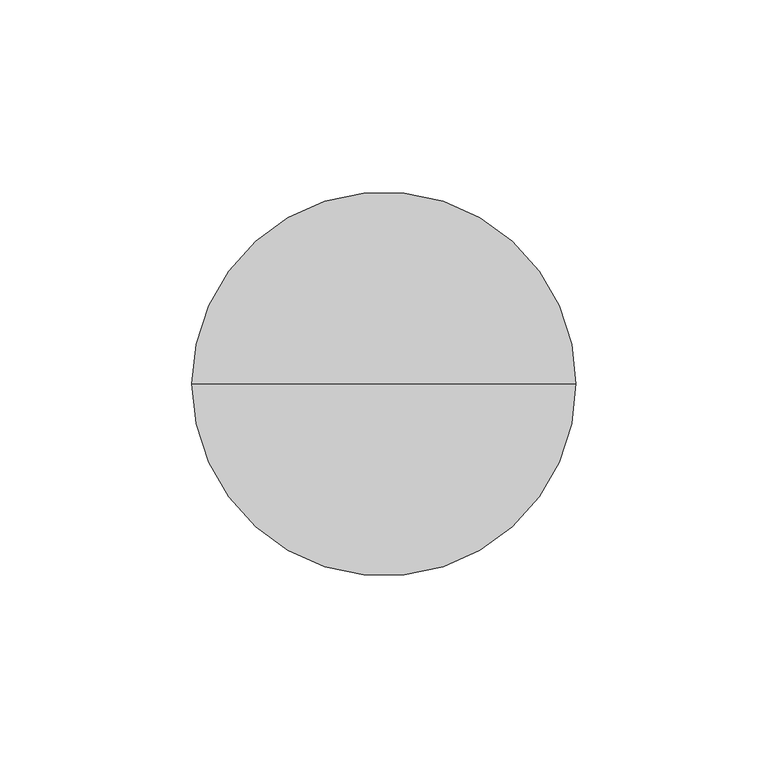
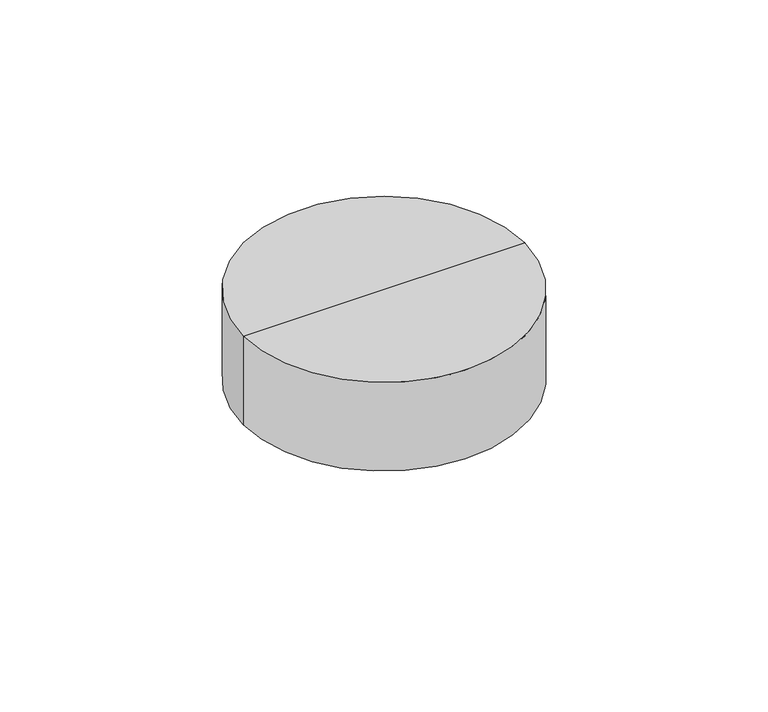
"""IFC4 building model written with IfcOpenShell, lengths in millimetres: alarm geometry, ZYR_12.01.08 Detectors : 01 Detector Òptic."""

from ifc_helpers import new_model, si_unit, frame, origin, place, context, project, spatial, polyline, circle_curve, source, transform, mapped, element, save
from ifc_brep_helpers import plane_surface, cylinder_surface, revolved_surface, advanced_brep


def alarm_83c2ce42(model_context):
    return source(origin(), model_context, "Body", "AdvancedBrep", [
        advanced_brep(
        [(50.0, 0.0, -33.3333333), (-50.0, 0.0, -33.3333333), (-50.0, 0.0, 0.0), (50.0, 0.0, 0.0), (25.0, 0.0, -50.0), (-25.0, 0.0, -50.0), (-25.0, 0.0, -41.6666667), (25.0, 0.0, -41.6666667), (0.0, 0.0, 0.0), (0.0, 0.0, -50.0)],
        [
            (0, 1, circle_curve(frame((0.0, 0.0, -33.3333333), z_axis=(0.0, 0.0, 1.0), x_axis=(-1.0, 0.0, 0.0)), 50.0)),
            (1, 2),
            (2, 3, circle_curve(frame((0.0, 0.0, 0.0), z_axis=(0.0, 0.0, -1.0), x_axis=(-1.0, 0.0, 0.0)), 50.0)),
            (3, 0),
            (1, 0, circle_curve(frame((0.0, 0.0, -33.3333333), z_axis=(0.0, 0.0, 1.0), x_axis=(-1.0, 0.0, 0.0)), 50.0)),
            (3, 2, circle_curve(frame((0.0, 0.0, 0.0), z_axis=(0.0, 0.0, -1.0), x_axis=(-1.0, 0.0, 0.0)), 50.0)),
            (4, 5, circle_curve(frame((0.0, 0.0, -50.0), z_axis=(0.0, 0.0, 1.0), x_axis=(-1.0, 0.0, 0.0)), 25.0)),
            (5, 6),
            (6, 7, circle_curve(frame((0.0, 0.0, -41.6666667), z_axis=(0.0, 0.0, -1.0), x_axis=(-1.0, 0.0, 0.0)), 25.0)),
            (7, 4),
            (5, 4, circle_curve(frame((0.0, 0.0, -50.0), z_axis=(0.0, 0.0, 1.0), x_axis=(-1.0, 0.0, 0.0)), 25.0)),
            (7, 6, circle_curve(frame((0.0, 0.0, -41.6666667), z_axis=(0.0, 0.0, -1.0), x_axis=(-1.0, 0.0, 0.0)), 25.0)),
            (2, 8),
            (8, 3),
            (9, 5),
            (4, 9),
            (6, 1),
            (0, 7),
        ],
        [
            cylinder_surface(frame((0.0, 0.0, 10.0), z_axis=(0.0, 0.0, -1.0), x_axis=(-1.0, 0.0, 0.0)), 50.0),
            cylinder_surface(frame((0.0, 0.0, 10.0), z_axis=(0.0, 0.0, -1.0), x_axis=(-1.0, 0.0, 0.0)), 25.0),
            plane_surface(frame((0.0, 0.0, 0.0), z_axis=(0.0, 0.0, 1.0), x_axis=(-1.0, 0.0, 0.0))),
            plane_surface(frame((0.0, 0.0, -50.0), z_axis=(0.0, 0.0, -1.0), x_axis=(-1.0, 0.0, 0.0))),
            revolved_surface(polyline([(-50.0, 0.0, -33.3333333), (-25.0, 0.0, -41.6666667)]), (0.0, 0.0, 10.0), (0.0, 0.0, -1.0)),
        ],
        [
            (0, [[1, 2, 3, 4]]),
            (0, [[5, -4, 6, -2]]),
            (1, [[7, 8, 9, 10]]),
            (1, [[11, -10, 12, -8]]),
            (2, [[-3, 13, 14]]),
            (2, [[-6, -14, -13]]),
            (3, [[15, -7, 16]]),
            (3, [[-16, -11, -15]]),
            (4, [[-9, 17, -1, 18]]),
            (4, [[-12, -18, -5, -17]]),
        ],
    ),
    ])


if __name__ == "__main__":
    model = new_model("IFC4")
    model_context = context("Model", 3, world=origin())
    ifc_project = project(units=[si_unit("LENGTHUNIT", "METRE", prefix="MILLI")], contexts=[model_context])
    site = spatial("IfcSite", under=ifc_project)
    building = spatial("IfcBuilding", under=site)
    placement = place(None, origin())
    alarm_shape = alarm_83c2ce42(model_context)
    element("IfcAlarm", 1, ObjectType="ZYR_12.01.08 Detectors : 01 Detector Òptic", at=placement, inside=building, context=model_context, shape_type="MappedRepresentation", body=[
        mapped(alarm_shape, transform((0.0, 0.0, 0.0), x_axis=(1.0, 0.0, 0.0), y_axis=(0.0, 1.0, 0.0), z_axis=(0.0, 0.0, 1.0))),
    ])
    save(model, "model.ifc")
